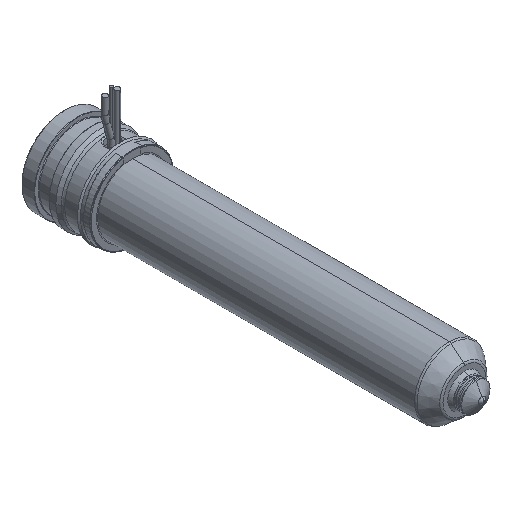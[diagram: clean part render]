
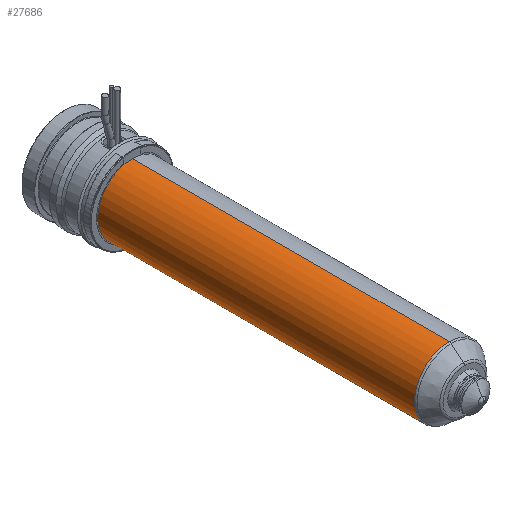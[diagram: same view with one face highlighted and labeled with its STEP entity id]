
A CAD part, isometric view. The second image highlights one B-rep face of the part: STEP entity #27686.
In plain terms, the highlighted cylindrical face has radius 12 mm (diameter 24 mm), a partial arc.
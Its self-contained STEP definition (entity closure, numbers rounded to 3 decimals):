
#27171=CARTESIAN_POINT('',(0.,-24.,0.));
#27172=DIRECTION('',(0.,1.,0.));
#27173=DIRECTION('',(0.,0.,-1.));
#27174=AXIS2_PLACEMENT_3D('',#27171,#27172,#27173);
#27179=DIRECTION('',(0.,1.,0.));
#27180=VECTOR('',#27179,109.736);
#27181=CARTESIAN_POINT('',(0.,-133.736,12.));
#27182=LINE('',#27181,#27180);
#27194=DIRECTION('',(0.,1.,0.));
#27195=VECTOR('',#27194,109.736);
#27196=CARTESIAN_POINT('',(0.,-133.736,-12.));
#27197=LINE('',#27196,#27195);
#27225=CARTESIAN_POINT('',(0.,-133.736,0.));
#27226=DIRECTION('',(0.,-1.,0.));
#27227=DIRECTION('',(0.,0.,1.));
#27228=AXIS2_PLACEMENT_3D('',#27225,#27226,#27227);
#27555=CARTESIAN_POINT('',(0.,-133.736,12.));
#27556=CARTESIAN_POINT('',(0.,-24.,12.));
#27557=VERTEX_POINT('',#27555);
#27558=VERTEX_POINT('',#27556);
#27559=CARTESIAN_POINT('',(0.,-133.736,-12.));
#27560=CARTESIAN_POINT('',(0.,-24.,-12.));
#27561=VERTEX_POINT('',#27559);
#27562=VERTEX_POINT('',#27560);
#27672=CARTESIAN_POINT('',(0.,-13.7,0.));
#27673=DIRECTION('',(0.,-1.,0.));
#27674=DIRECTION('',(0.,0.,1.));
#27675=AXIS2_PLACEMENT_3D('',#27672,#27673,#27674);
#27676=CYLINDRICAL_SURFACE('',#27675,12.);
#27678=ORIENTED_EDGE('',*,*,#27677,.F.);
#27680=ORIENTED_EDGE('',*,*,#27679,.T.);
#27682=ORIENTED_EDGE('',*,*,#27681,.T.);
#27683=ORIENTED_EDGE('',*,*,#27665,.T.);
#27684=EDGE_LOOP('',(#27678,#27680,#27682,#27683));
#27685=FACE_OUTER_BOUND('',#27684,.F.);
#27686=ADVANCED_FACE('',(#27685),#27676,.T.);
#27175=CIRCLE('',#27174,12.);
#27229=CIRCLE('',#27228,12.);
#27665=EDGE_CURVE('',#27562,#27558,#27175,.T.);
#27677=EDGE_CURVE('',#27557,#27558,#27182,.T.);
#27679=EDGE_CURVE('',#27557,#27561,#27229,.T.);
#27681=EDGE_CURVE('',#27561,#27562,#27197,.T.);
